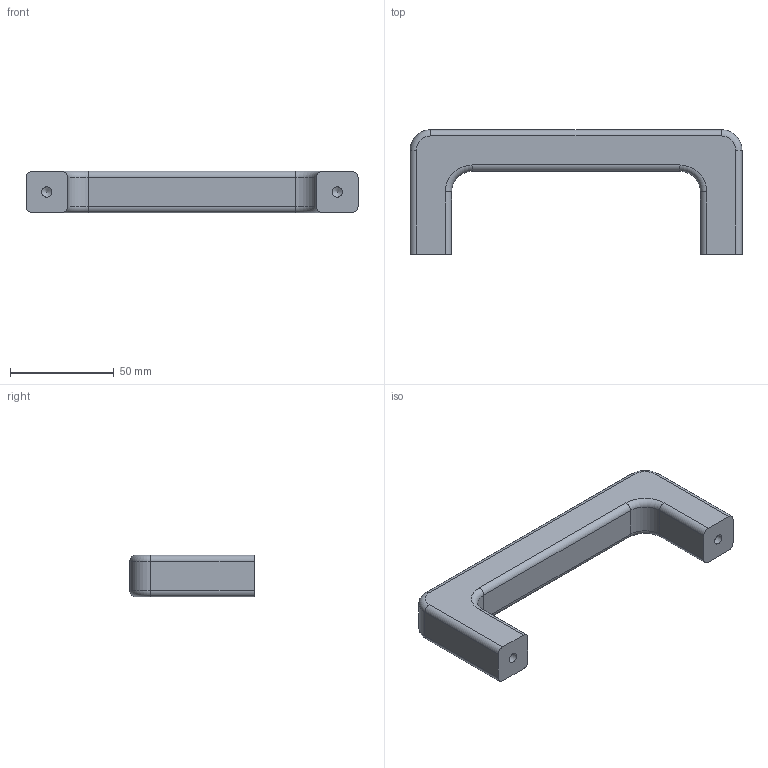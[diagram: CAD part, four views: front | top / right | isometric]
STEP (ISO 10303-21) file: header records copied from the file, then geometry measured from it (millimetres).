
FILE_DESCRIPTION((''),'2;1');
FILE_NAME('C:\Inventor 2012 Essentials\Parts\Chapter 14\c14-01.stp','2011-01-28T16:16:12',('Beta-8540w'),(''),'Autodesk Inventor 2012','Autodesk Inventor 2012','');
FILE_SCHEMA(('AUTOMOTIVE_DESIGN { 1 0 10303 214 1 1 1 1 }'));
Length unit declared in the file: millimetre
Products named in the file (1): c14-01
Bounding box: 160 x 60 x 20 mm (x, y, z)
Volume: 93737.7 mm3; surface area: 18826.4 mm2
Topology: 1 solids, 1 shells, 38 faces, 90 edges, 54 vertices
Faces by surface type: cylinder 18, plane 10, torus 8, cone 2
Full cylindrical faces by diameter (mm): 4.917 x2
Entity records: 1082 total; most frequent: DIRECTION 206, CARTESIAN_POINT 175, ORIENTED_EDGE 168, EDGE_CURVE 84, AXIS2_PLACEMENT_3D 83, VERTEX_POINT 52, CIRCLE 44, EDGE_LOOP 42
